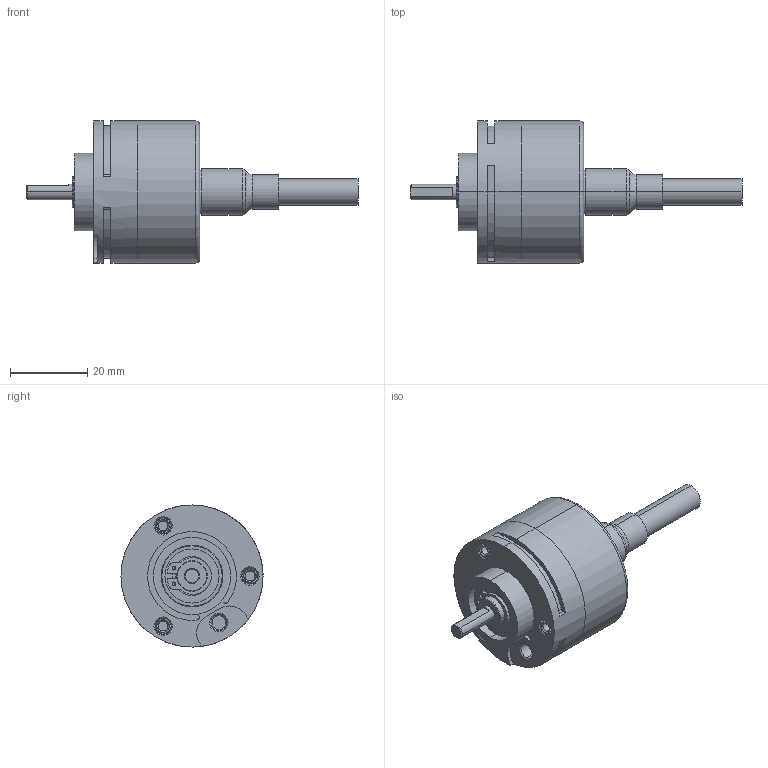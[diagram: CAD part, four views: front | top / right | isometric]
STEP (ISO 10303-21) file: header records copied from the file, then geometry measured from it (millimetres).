
FILE_DESCRIPTION (( 'STEP AP214' ), '1' );
FILE_NAME ('3700.11X1.XXXX.STEP', '2008-11-25T09:12:36', ( 'admin' ), ( 'Fritz Kübler GmbH' ), 'SwSTEP 2.0', 'SolidWorks 2008', '' );
FILE_SCHEMA (( 'AUTOMOTIVE_DESIGN' ));
Length unit declared in the file: millimetre
Products named in the file (1): 3700.11X1.XXXX
Bounding box: 86 x 36.8 x 36.8 mm (x, y, z)
Volume: 15467.2 mm3; surface area: 17808.7 mm2
Topology: 10 solids, 11 shells, 1110 faces, 2965 edges, 1862 vertices
Faces by surface type: plane 351, cylinder 348, bspline 171, torus 120, cone 79, sphere 41
Entity records: 51771 total; most frequent: CARTESIAN_POINT 14598, ORIENTED_EDGE 5804, DIRECTION 4860, EDGE_CURVE 2902, AXIS2_PLACEMENT_3D 2155, VERTEX_POINT 1828, CIRCLE 1215, EDGE_LOOP 1160
